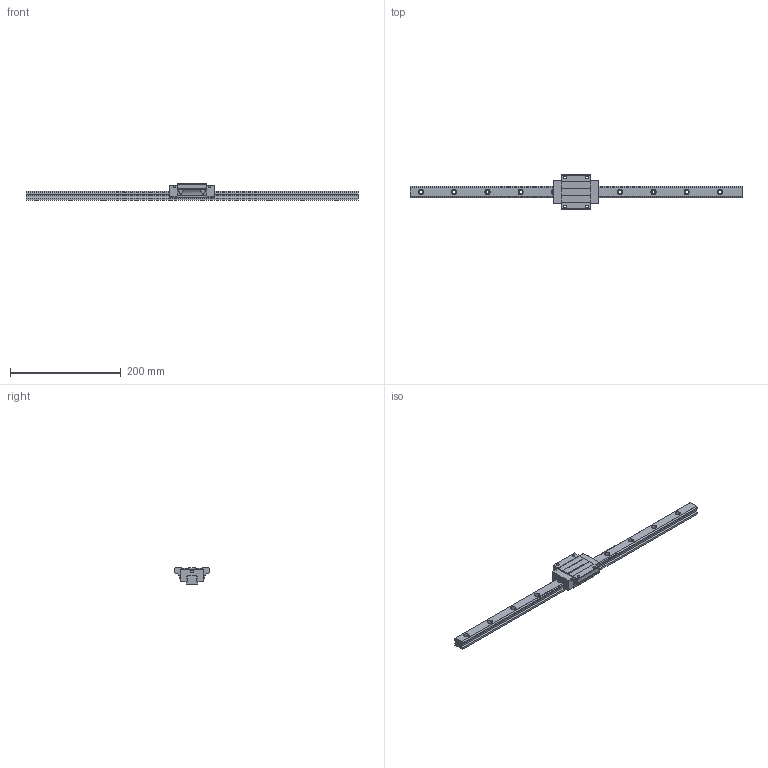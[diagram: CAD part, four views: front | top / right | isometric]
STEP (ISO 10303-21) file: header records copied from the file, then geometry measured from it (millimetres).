
FILE_DESCRIPTION (( 'STEP AP203' ), '1' );
FILE_NAME ('TRH20FN-SU.STEP', '2024-06-26T03:14:10', ( '' ), ( '' ), 'SwSTEP 2.0', 'SolidWorks 2022', '' );
FILE_SCHEMA (( 'CONFIG_CONTROL_DESIGN' ));
Length unit declared in the file: millimetre
Products named in the file (1): TRH20FN-SU
Bounding box: 600 x 63 x 30 mm (x, y, z)
Volume: 243209.9 mm3; surface area: 67171.4 mm2
Topology: 2 solids, 2 shells, 222 faces, 598 edges, 392 vertices
Faces by surface type: cylinder 126, plane 92, sphere 4
Entity records: 7695 total; most frequent: CARTESIAN_POINT 1839, DIRECTION 1242, ORIENTED_EDGE 1188, EDGE_CURVE 594, AXIS2_PLACEMENT_3D 451, VERTEX_POINT 392, LINE 340, VECTOR 340
